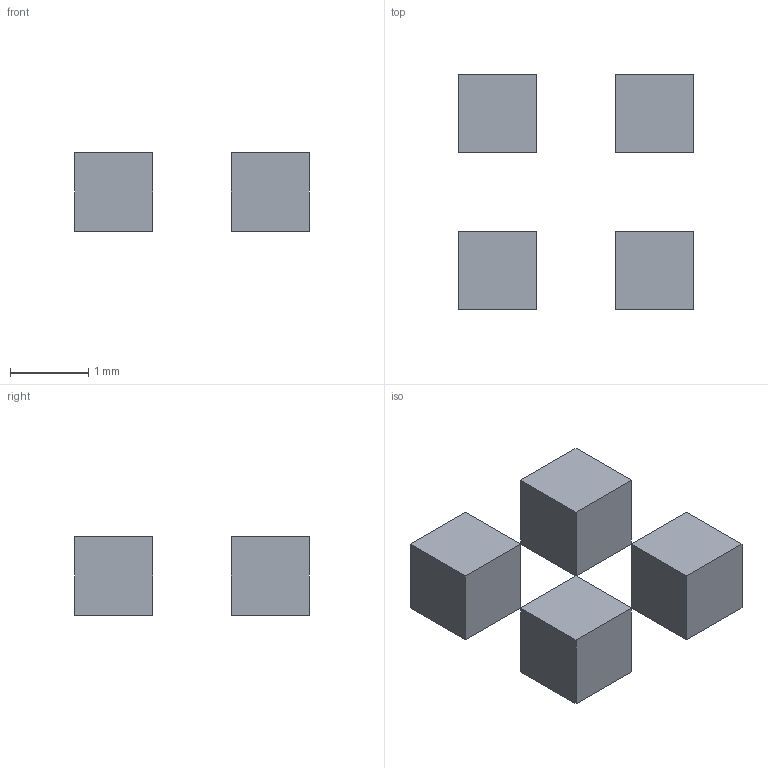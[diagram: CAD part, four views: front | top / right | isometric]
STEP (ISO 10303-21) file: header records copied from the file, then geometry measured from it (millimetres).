
FILE_DESCRIPTION(('Open CASCADE Model'),'2;1');
FILE_NAME('Open CASCADE Shape Model','2024-10-24T15:43:19',('Author'),( 'Open CASCADE'),'Open CASCADE STEP processor 7.7','Open CASCADE 7.7' ,'Unknown');
FILE_SCHEMA(('AUTOMOTIVE_DESIGN { 1 0 10303 214 1 1 1 1 }'));
Length unit declared in the file: millimetre
Products named in the file (6): a3912bf0-91db-11ef-98fc-58ce2afb5716; a3912d62-91db-11ef-98fc-58ce2afb5716; a3912d62-91db-11ef-98fc-58ce2afb5716_part; a3912e34-91db-11ef-98fc-58ce2afb5716; a3912ed4-91db-11ef-98fc-58ce2afb5716; a3912f56-91db-11ef-98fc-58ce2afb5716
Assembly tree (8 placements, depth 3):
  a3912bf0-91db-11ef-98fc-58ce2afb5716
    a3912d62-91db-11ef-98fc-58ce2afb5716
      a3912d62-91db-11ef-98fc-58ce2afb5716_part
    a3912e34-91db-11ef-98fc-58ce2afb5716
      a3912d62-91db-11ef-98fc-58ce2afb5716_part
    a3912ed4-91db-11ef-98fc-58ce2afb5716
      a3912d62-91db-11ef-98fc-58ce2afb5716_part
    a3912f56-91db-11ef-98fc-58ce2afb5716
      a3912d62-91db-11ef-98fc-58ce2afb5716_part
Bounding box: 3 x 3 x 1 mm (x, y, z)
Volume: 4 mm3; surface area: 24 mm2
Topology: 4 solids, 4 shells, 24 faces, 48 edges, 32 vertices
Faces by surface type: plane 24
Entity records: 445 total; most frequent: DIRECTION 66, CARTESIAN_POINT 59, LINE 36, VECTOR 36, ORIENTED_EDGE 24, PCURVE 24, DEFINITIONAL_REPRESENTATION 24, AXIS2_PLACEMENT_3D 15
